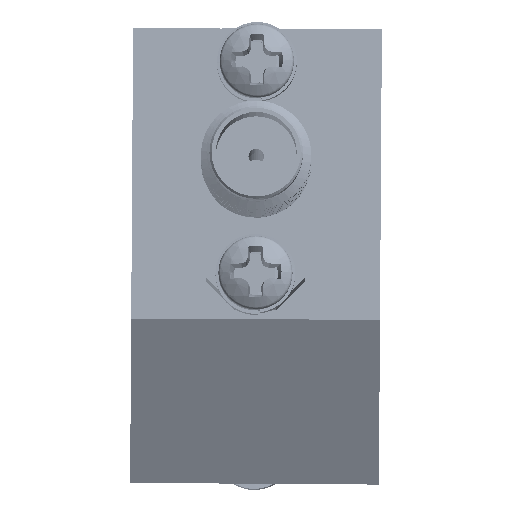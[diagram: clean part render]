
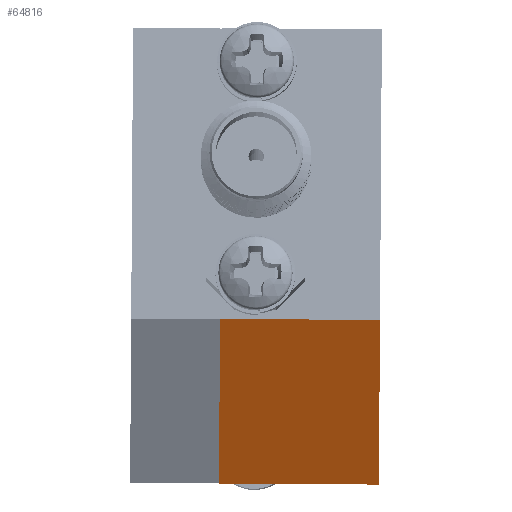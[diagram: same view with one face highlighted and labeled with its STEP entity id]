
A CAD part, left-side view. The second image highlights one B-rep face of the part: STEP entity #64816.
In plain terms, the highlighted planar face has unit normal (-0.131, 0.006, -0.991) as drawn and (0, 0, -1) by its records, which use the part's own axes.
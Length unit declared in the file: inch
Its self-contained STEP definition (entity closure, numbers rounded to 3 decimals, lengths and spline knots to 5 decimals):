
#756 = DIRECTION ( 'NONE',  ( 1., 0., 0. ) ) ;
#974 = EDGE_CURVE ( 'NONE', #53151, #59759, #27041, .T. ) ;
#3334 = VECTOR ( 'NONE', #756, 39.37008 ) ;
#4611 = CARTESIAN_POINT ( 'NONE',  ( 1.42, -0.205, -0.33 ) ) ;
#5484 = EDGE_CURVE ( 'NONE', #33880, #53151, #11206, .T. ) ;
#10891 = FACE_OUTER_BOUND ( 'NONE', #30164, .T. ) ;
#11206 = LINE ( 'NONE', #11541, #3334 ) ;
#11541 = CARTESIAN_POINT ( 'NONE',  ( 1.42, 0.155, -0.33 ) ) ;
#11563 = DIRECTION ( 'NONE',  ( 0., 0., -1. ) ) ;
#21811 = CARTESIAN_POINT ( 'NONE',  ( -1.42, 0.155, -0.33 ) ) ;
#25262 = DIRECTION ( 'NONE',  ( 1., 0., 0. ) ) ;
#26131 = ORIENTED_EDGE ( 'NONE', *, *, #59675, .F. ) ;
#27041 = LINE ( 'NONE', #56449, #42242 ) ;
#27962 = CARTESIAN_POINT ( 'NONE',  ( -1.42, -0.205, -0.33 ) ) ;
#30164 = EDGE_LOOP ( 'NONE', ( #51738, #53135, #26131, #59636 ) ) ;
#33880 = VERTEX_POINT ( 'NONE', #21811 ) ;
#34508 = VERTEX_POINT ( 'NONE', #27962 ) ;
#36055 = LINE ( 'NONE', #61398, #65965 ) ;
#42242 = VECTOR ( 'NONE', #51712, 39.37008 ) ;
#42661 = PLANE ( 'NONE',  #49552 ) ;
#43082 = CARTESIAN_POINT ( 'NONE',  ( 1.42, 0.155, -0.33 ) ) ;
#44514 = DIRECTION ( 'NONE',  ( 0., -1., 0. ) ) ;
#44870 = VECTOR ( 'NONE', #44514, 39.37008 ) ;
#45500 = CARTESIAN_POINT ( 'NONE',  ( -1.42, 0.155, -0.33 ) ) ;
#46890 = EDGE_CURVE ( 'NONE', #34508, #59759, #36055, .T. ) ;
#47396 = DIRECTION ( 'NONE',  ( -1., 0., 0. ) ) ;
#49552 = AXIS2_PLACEMENT_3D ( 'NONE', #63590, #11563, #47396 ) ;
#49890 = LINE ( 'NONE', #45500, #44870 ) ;
#51712 = DIRECTION ( 'NONE',  ( 0., -1., 0. ) ) ;
#51738 = ORIENTED_EDGE ( 'NONE', *, *, #974, .T. ) ;
#53135 = ORIENTED_EDGE ( 'NONE', *, *, #46890, .F. ) ;
#53151 = VERTEX_POINT ( 'NONE', #43082 ) ;
#56449 = CARTESIAN_POINT ( 'NONE',  ( 1.42, 0.155, -0.33 ) ) ;
#59636 = ORIENTED_EDGE ( 'NONE', *, *, #5484, .T. ) ;
#59675 = EDGE_CURVE ( 'NONE', #33880, #34508, #49890, .T. ) ;
#59759 = VERTEX_POINT ( 'NONE', #4611 ) ;
#61398 = CARTESIAN_POINT ( 'NONE',  ( 1.42, -0.205, -0.33 ) ) ;
#63590 = CARTESIAN_POINT ( 'NONE',  ( 1.42, 0.155, -0.33 ) ) ;
#64816 = ADVANCED_FACE ( 'NONE', ( #10891 ), #42661, .T. ) ;
#65965 = VECTOR ( 'NONE', #25262, 39.37008 ) ;
